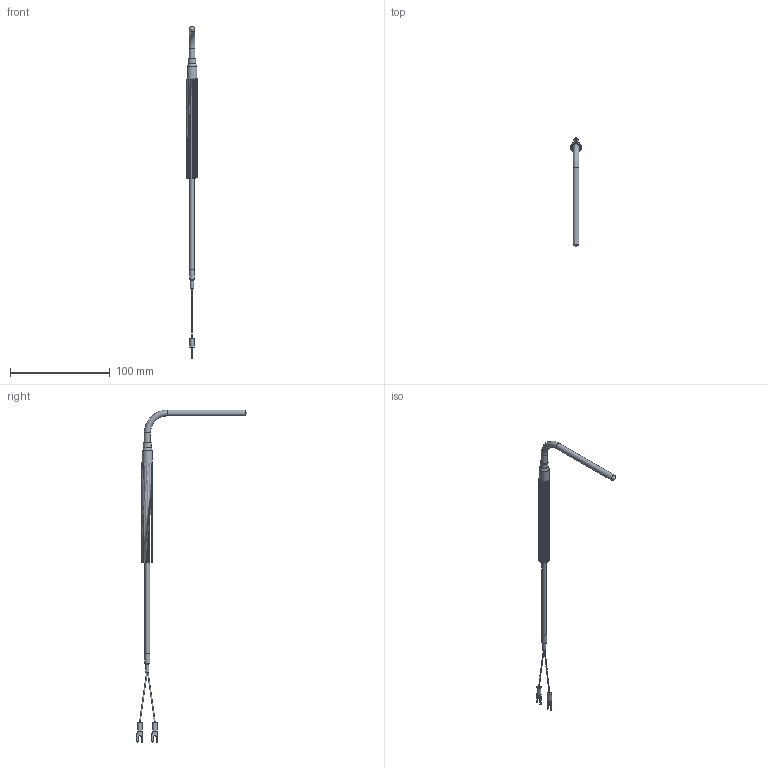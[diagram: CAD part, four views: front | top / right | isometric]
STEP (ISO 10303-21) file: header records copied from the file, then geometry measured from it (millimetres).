
FILE_DESCRIPTION (( 'STEP AP203' ), '1' );
FILE_NAME ('YIT110-2(0).STEP', '2025-02-25T01:04:32', ( '' ), ( '' ), 'SwSTEP 2.0', 'SolidWorks 2021', '' );
FILE_SCHEMA (( 'CONFIG_CONTROL_DESIGN' ));
Length unit declared in the file: millimetre
Products named in the file (1): YIT110-2(0)
Bounding box: 10.9 x 110.43 x 333.25 mm (x, y, z)
Volume: 9564.2 mm3; surface area: 12013.8 mm2
Topology: 1 solids, 1 shells, 61 faces, 146 edges, 96 vertices
Faces by surface type: plane 31, cylinder 23, cone 3, bspline 3, torus 1
Full cylindrical faces by diameter (mm): 3.16 x1, 4.5 x2, 4.8 x1, 5 x1, 6 x2, 8 x1, 10 x1
Entity records: 10260 total; most frequent: CARTESIAN_POINT 8825, DIRECTION 293, ORIENTED_EDGE 250, EDGE_CURVE 125, AXIS2_PLACEMENT_3D 112, VERTEX_POINT 91, EDGE_LOOP 86, FACE_OUTER_BOUND 74
